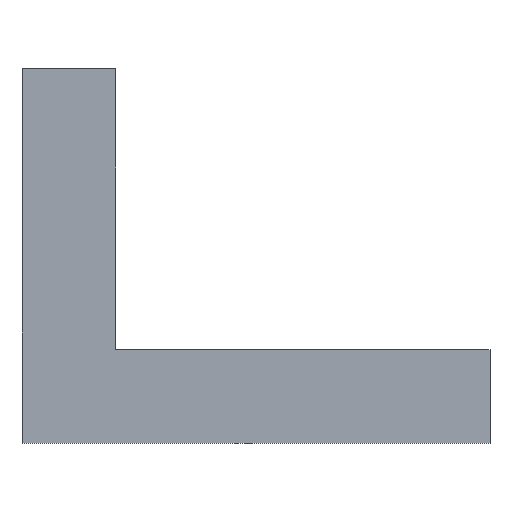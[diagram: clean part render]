
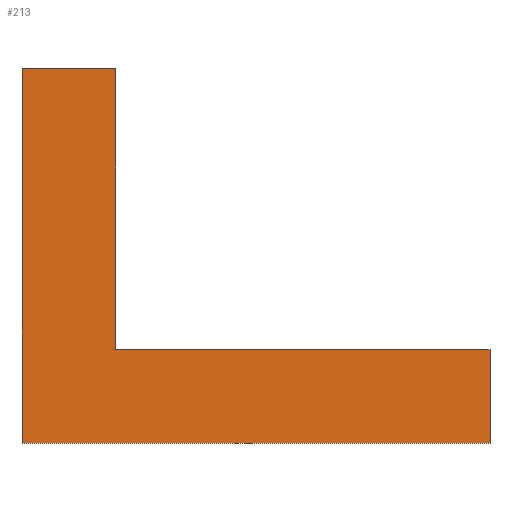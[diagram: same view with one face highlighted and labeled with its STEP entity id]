
A CAD part, top view. The second image highlights one B-rep face of the part: STEP entity #213.
In plain terms, the highlighted planar face has unit normal (0, 0, 1).
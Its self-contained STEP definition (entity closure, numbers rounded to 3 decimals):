
#24 = VERTEX_POINT('',#25);
#25 = CARTESIAN_POINT('',(0.,0.,2.));
#32 = PLANE('',#33);
#33 = AXIS2_PLACEMENT_3D('',#34,#35,#36);
#34 = CARTESIAN_POINT('',(0.,0.,0.));
#35 = DIRECTION('',(1.,0.,-0.));
#36 = DIRECTION('',(0.,0.,1.));
#44 = PLANE('',#45);
#45 = AXIS2_PLACEMENT_3D('',#46,#47,#48);
#46 = CARTESIAN_POINT('',(0.,0.,0.));
#47 = DIRECTION('',(-0.,1.,0.));
#48 = DIRECTION('',(0.,0.,1.));
#85 = VERTEX_POINT('',#86);
#86 = CARTESIAN_POINT('',(0.,8.,2.));
#100 = PLANE('',#101);
#101 = AXIS2_PLACEMENT_3D('',#102,#103,#104);
#102 = CARTESIAN_POINT('',(0.,8.,0.));
#103 = DIRECTION('',(-0.,1.,0.));
#104 = DIRECTION('',(0.,0.,1.));
#112 = EDGE_CURVE('',#24,#85,#113,.T.);
#113 = SURFACE_CURVE('',#114,(#118,#125),.PCURVE_S1.);
#114 = LINE('',#115,#116);
#115 = CARTESIAN_POINT('',(0.,0.,2.));
#116 = VECTOR('',#117,1.);
#117 = DIRECTION('',(0.,1.,0.));
#118 = PCURVE('',#32,#119);
#119 = DEFINITIONAL_REPRESENTATION('',(#120),#124);
#120 = LINE('',#121,#122);
#121 = CARTESIAN_POINT('',(2.,0.));
#122 = VECTOR('',#123,1.);
#123 = DIRECTION('',(0.,-1.));
#124 = ( GEOMETRIC_REPRESENTATION_CONTEXT(2) 
PARAMETRIC_REPRESENTATION_CONTEXT() REPRESENTATION_CONTEXT('2D SPACE',''
  ) );
#125 = PCURVE('',#126,#131);
#126 = PLANE('',#127);
#127 = AXIS2_PLACEMENT_3D('',#128,#129,#130);
#128 = CARTESIAN_POINT('',(0.,0.,2.));
#129 = DIRECTION('',(0.,0.,1.));
#130 = DIRECTION('',(1.,0.,-0.));
#131 = DEFINITIONAL_REPRESENTATION('',(#132),#136);
#132 = LINE('',#133,#134);
#133 = CARTESIAN_POINT('',(0.,0.));
#134 = VECTOR('',#135,1.);
#135 = DIRECTION('',(0.,1.));
#136 = ( GEOMETRIC_REPRESENTATION_CONTEXT(2) 
PARAMETRIC_REPRESENTATION_CONTEXT() REPRESENTATION_CONTEXT('2D SPACE',''
  ) );
#165 = EDGE_CURVE('',#24,#166,#168,.T.);
#166 = VERTEX_POINT('',#167);
#167 = CARTESIAN_POINT('',(10.,0.,2.));
#168 = SURFACE_CURVE('',#169,(#173,#180),.PCURVE_S1.);
#169 = LINE('',#170,#171);
#170 = CARTESIAN_POINT('',(0.,0.,2.));
#171 = VECTOR('',#172,1.);
#172 = DIRECTION('',(1.,0.,-0.));
#173 = PCURVE('',#44,#174);
#174 = DEFINITIONAL_REPRESENTATION('',(#175),#179);
#175 = LINE('',#176,#177);
#176 = CARTESIAN_POINT('',(2.,0.));
#177 = VECTOR('',#178,1.);
#178 = DIRECTION('',(0.,1.));
#179 = ( GEOMETRIC_REPRESENTATION_CONTEXT(2) 
PARAMETRIC_REPRESENTATION_CONTEXT() REPRESENTATION_CONTEXT('2D SPACE',''
  ) );
#180 = PCURVE('',#126,#181);
#181 = DEFINITIONAL_REPRESENTATION('',(#182),#186);
#182 = LINE('',#183,#184);
#183 = CARTESIAN_POINT('',(0.,0.));
#184 = VECTOR('',#185,1.);
#185 = DIRECTION('',(1.,0.));
#186 = ( GEOMETRIC_REPRESENTATION_CONTEXT(2) 
PARAMETRIC_REPRESENTATION_CONTEXT() REPRESENTATION_CONTEXT('2D SPACE',''
  ) );
#202 = PLANE('',#203);
#203 = AXIS2_PLACEMENT_3D('',#204,#205,#206);
#204 = CARTESIAN_POINT('',(10.,0.,0.));
#205 = DIRECTION('',(1.,0.,-0.));
#206 = DIRECTION('',(0.,0.,1.));
#213 = ADVANCED_FACE('',(#214),#126,.T.);
#214 = FACE_BOUND('',#215,.T.);
#215 = EDGE_LOOP('',(#216,#217,#218,#241,#269,#297));
#216 = ORIENTED_EDGE('',*,*,#112,.F.);
#217 = ORIENTED_EDGE('',*,*,#165,.T.);
#218 = ORIENTED_EDGE('',*,*,#219,.T.);
#219 = EDGE_CURVE('',#166,#220,#222,.T.);
#220 = VERTEX_POINT('',#221);
#221 = CARTESIAN_POINT('',(10.,2.,2.));
#222 = SURFACE_CURVE('',#223,(#227,#234),.PCURVE_S1.);
#223 = LINE('',#224,#225);
#224 = CARTESIAN_POINT('',(10.,0.,2.));
#225 = VECTOR('',#226,1.);
#226 = DIRECTION('',(-0.,1.,0.));
#227 = PCURVE('',#126,#228);
#228 = DEFINITIONAL_REPRESENTATION('',(#229),#233);
#229 = LINE('',#230,#231);
#230 = CARTESIAN_POINT('',(10.,0.));
#231 = VECTOR('',#232,1.);
#232 = DIRECTION('',(0.,1.));
#233 = ( GEOMETRIC_REPRESENTATION_CONTEXT(2) 
PARAMETRIC_REPRESENTATION_CONTEXT() REPRESENTATION_CONTEXT('2D SPACE',''
  ) );
#234 = PCURVE('',#202,#235);
#235 = DEFINITIONAL_REPRESENTATION('',(#236),#240);
#236 = LINE('',#237,#238);
#237 = CARTESIAN_POINT('',(2.,0.));
#238 = VECTOR('',#239,1.);
#239 = DIRECTION('',(0.,-1.));
#240 = ( GEOMETRIC_REPRESENTATION_CONTEXT(2) 
PARAMETRIC_REPRESENTATION_CONTEXT() REPRESENTATION_CONTEXT('2D SPACE',''
  ) );
#241 = ORIENTED_EDGE('',*,*,#242,.F.);
#242 = EDGE_CURVE('',#243,#220,#245,.T.);
#243 = VERTEX_POINT('',#244);
#244 = CARTESIAN_POINT('',(2.,2.,2.));
#245 = SURFACE_CURVE('',#246,(#250,#257),.PCURVE_S1.);
#246 = LINE('',#247,#248);
#247 = CARTESIAN_POINT('',(0.,2.,2.));
#248 = VECTOR('',#249,1.);
#249 = DIRECTION('',(1.,0.,-0.));
#250 = PCURVE('',#126,#251);
#251 = DEFINITIONAL_REPRESENTATION('',(#252),#256);
#252 = LINE('',#253,#254);
#253 = CARTESIAN_POINT('',(0.,2.));
#254 = VECTOR('',#255,1.);
#255 = DIRECTION('',(1.,0.));
#256 = ( GEOMETRIC_REPRESENTATION_CONTEXT(2) 
PARAMETRIC_REPRESENTATION_CONTEXT() REPRESENTATION_CONTEXT('2D SPACE',''
  ) );
#257 = PCURVE('',#258,#263);
#258 = PLANE('',#259);
#259 = AXIS2_PLACEMENT_3D('',#260,#261,#262);
#260 = CARTESIAN_POINT('',(0.,2.,0.));
#261 = DIRECTION('',(-0.,1.,0.));
#262 = DIRECTION('',(0.,0.,1.));
#263 = DEFINITIONAL_REPRESENTATION('',(#264),#268);
#264 = LINE('',#265,#266);
#265 = CARTESIAN_POINT('',(2.,0.));
#266 = VECTOR('',#267,1.);
#267 = DIRECTION('',(0.,1.));
#268 = ( GEOMETRIC_REPRESENTATION_CONTEXT(2) 
PARAMETRIC_REPRESENTATION_CONTEXT() REPRESENTATION_CONTEXT('2D SPACE',''
  ) );
#269 = ORIENTED_EDGE('',*,*,#270,.T.);
#270 = EDGE_CURVE('',#243,#271,#273,.T.);
#271 = VERTEX_POINT('',#272);
#272 = CARTESIAN_POINT('',(2.,8.,2.));
#273 = SURFACE_CURVE('',#274,(#278,#285),.PCURVE_S1.);
#274 = LINE('',#275,#276);
#275 = CARTESIAN_POINT('',(2.,2.,2.));
#276 = VECTOR('',#277,1.);
#277 = DIRECTION('',(-0.,1.,0.));
#278 = PCURVE('',#126,#279);
#279 = DEFINITIONAL_REPRESENTATION('',(#280),#284);
#280 = LINE('',#281,#282);
#281 = CARTESIAN_POINT('',(2.,2.));
#282 = VECTOR('',#283,1.);
#283 = DIRECTION('',(0.,1.));
#284 = ( GEOMETRIC_REPRESENTATION_CONTEXT(2) 
PARAMETRIC_REPRESENTATION_CONTEXT() REPRESENTATION_CONTEXT('2D SPACE',''
  ) );
#285 = PCURVE('',#286,#291);
#286 = PLANE('',#287);
#287 = AXIS2_PLACEMENT_3D('',#288,#289,#290);
#288 = CARTESIAN_POINT('',(2.,2.,0.));
#289 = DIRECTION('',(1.,0.,-0.));
#290 = DIRECTION('',(0.,0.,1.));
#291 = DEFINITIONAL_REPRESENTATION('',(#292),#296);
#292 = LINE('',#293,#294);
#293 = CARTESIAN_POINT('',(2.,0.));
#294 = VECTOR('',#295,1.);
#295 = DIRECTION('',(0.,-1.));
#296 = ( GEOMETRIC_REPRESENTATION_CONTEXT(2) 
PARAMETRIC_REPRESENTATION_CONTEXT() REPRESENTATION_CONTEXT('2D SPACE',''
  ) );
#297 = ORIENTED_EDGE('',*,*,#298,.F.);
#298 = EDGE_CURVE('',#85,#271,#299,.T.);
#299 = SURFACE_CURVE('',#300,(#304,#311),.PCURVE_S1.);
#300 = LINE('',#301,#302);
#301 = CARTESIAN_POINT('',(0.,8.,2.));
#302 = VECTOR('',#303,1.);
#303 = DIRECTION('',(1.,0.,-0.));
#304 = PCURVE('',#126,#305);
#305 = DEFINITIONAL_REPRESENTATION('',(#306),#310);
#306 = LINE('',#307,#308);
#307 = CARTESIAN_POINT('',(0.,8.));
#308 = VECTOR('',#309,1.);
#309 = DIRECTION('',(1.,0.));
#310 = ( GEOMETRIC_REPRESENTATION_CONTEXT(2) 
PARAMETRIC_REPRESENTATION_CONTEXT() REPRESENTATION_CONTEXT('2D SPACE',''
  ) );
#311 = PCURVE('',#100,#312);
#312 = DEFINITIONAL_REPRESENTATION('',(#313),#317);
#313 = LINE('',#314,#315);
#314 = CARTESIAN_POINT('',(2.,0.));
#315 = VECTOR('',#316,1.);
#316 = DIRECTION('',(0.,1.));
#317 = ( GEOMETRIC_REPRESENTATION_CONTEXT(2) 
PARAMETRIC_REPRESENTATION_CONTEXT() REPRESENTATION_CONTEXT('2D SPACE',''
  ) );
